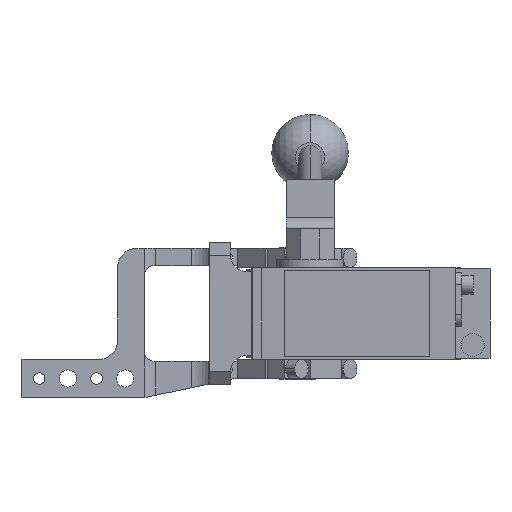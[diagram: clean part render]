
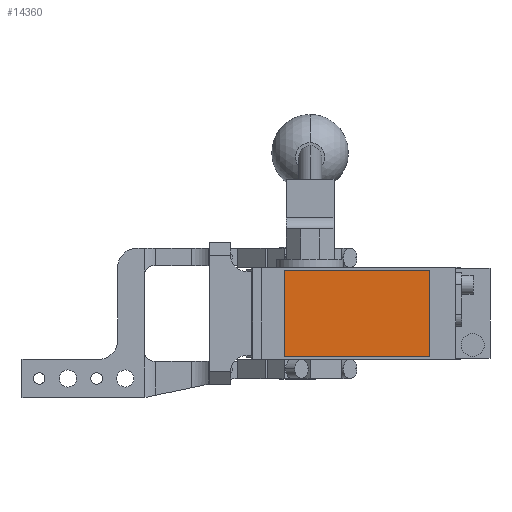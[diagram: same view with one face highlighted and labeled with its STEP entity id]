
A CAD part, front view. The second image highlights one B-rep face of the part: STEP entity #14360.
In plain terms, the highlighted planar face has unit normal (0, -1, 0).
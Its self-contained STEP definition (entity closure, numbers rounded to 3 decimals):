
#31 = CARTESIAN_POINT ( 'NONE',  ( 69., -280.5, -22.5 ) ) ;
#330 = DIRECTION ( 'NONE',  ( 0., 0., -1. ) ) ;
#400 = CARTESIAN_POINT ( 'NONE',  ( 69., -280.5, 22.5 ) ) ;
#672 = VERTEX_POINT ( 'NONE', #1298 ) ;
#673 = DIRECTION ( 'NONE',  ( 0., -1., 0. ) ) ;
#698 = EDGE_CURVE ( 'NONE', #9271, #672, #12637, .T. ) ;
#1049 = VECTOR ( 'NONE', #8642, 1000. ) ;
#1298 = CARTESIAN_POINT ( 'NONE',  ( -7., -280.5, -22.5 ) ) ;
#1570 = EDGE_CURVE ( 'NONE', #13312, #9271, #7197, .T. ) ;
#2257 = EDGE_CURVE ( 'NONE', #672, #13773, #13862, .T. ) ;
#2711 = CARTESIAN_POINT ( 'NONE',  ( -7., -280.5, -22.5 ) ) ;
#2763 = VECTOR ( 'NONE', #8795, 1000. ) ;
#3486 = CARTESIAN_POINT ( 'NONE',  ( 69., -280.5, 22.5 ) ) ;
#5049 = CARTESIAN_POINT ( 'NONE',  ( -7., -280.5, 22.5 ) ) ;
#5201 = LINE ( 'NONE', #400, #2763 ) ;
#5895 = FACE_OUTER_BOUND ( 'NONE', #8481, .T. ) ;
#5946 = CARTESIAN_POINT ( 'NONE',  ( -7., -280.5, 22.5 ) ) ;
#6855 = VECTOR ( 'NONE', #330, 1000. ) ;
#7144 = PLANE ( 'NONE',  #11467 ) ;
#7197 = LINE ( 'NONE', #5946, #1049 ) ;
#7693 = DIRECTION ( 'NONE',  ( 1., 0., 0. ) ) ;
#8481 = EDGE_LOOP ( 'NONE', ( #15056, #12697, #9617, #11244 ) ) ;
#8642 = DIRECTION ( 'NONE',  ( -1., 0., 0. ) ) ;
#8795 = DIRECTION ( 'NONE',  ( 0., 0., 1. ) ) ;
#9271 = VERTEX_POINT ( 'NONE', #10074 ) ;
#9617 = ORIENTED_EDGE ( 'NONE', *, *, #12973, .T. ) ;
#10074 = CARTESIAN_POINT ( 'NONE',  ( -7., -280.5, 22.5 ) ) ;
#11244 = ORIENTED_EDGE ( 'NONE', *, *, #1570, .T. ) ;
#11467 = AXIS2_PLACEMENT_3D ( 'NONE', #15499, #673, #13089 ) ;
#12637 = LINE ( 'NONE', #5049, #6855 ) ;
#12697 = ORIENTED_EDGE ( 'NONE', *, *, #2257, .T. ) ;
#12973 = EDGE_CURVE ( 'NONE', #13773, #13312, #5201, .T. ) ;
#13089 = DIRECTION ( 'NONE',  ( 0., 0., -1. ) ) ;
#13312 = VERTEX_POINT ( 'NONE', #3486 ) ;
#13773 = VERTEX_POINT ( 'NONE', #31 ) ;
#13862 = LINE ( 'NONE', #2711, #14804 ) ;
#14360 = ADVANCED_FACE ( 'NONE', ( #5895 ), #7144, .T. ) ;
#14804 = VECTOR ( 'NONE', #7693, 1000. ) ;
#15056 = ORIENTED_EDGE ( 'NONE', *, *, #698, .T. ) ;
#15499 = CARTESIAN_POINT ( 'NONE',  ( 0., -280.5, 0. ) ) ;
